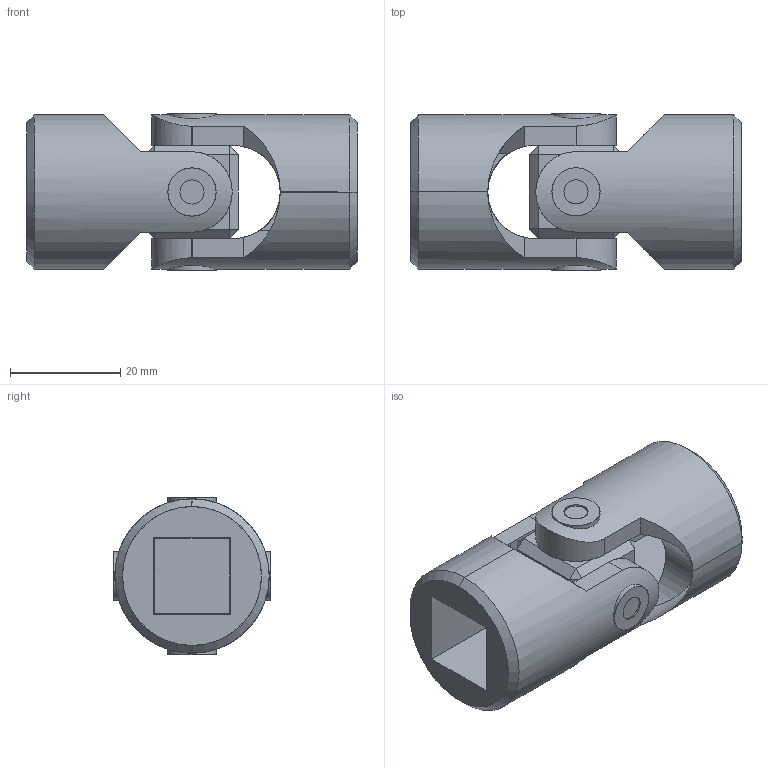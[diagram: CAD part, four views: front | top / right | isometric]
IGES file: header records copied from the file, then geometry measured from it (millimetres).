
Start section: SolidWorks IGES file using analytic representation for surfaces
Global section: file name: C:\Users\IanO\Desktop\R3690_v2\R3690_v2_20231020_IGES\R3690.014-SB.igs; native system: SolidWorks 2019; preprocessor: SolidWorks 2019; author: IanO; date: 231020.152943; units: millimetre
Bounding box: 60 x 28.56 x 28.56 mm (x, y, z)
Surface area: 12716.5 mm2 (no closed solid volume)
Topology: 0 solids, 0 shells, 108 faces, 2016 edges, 2016 vertices
Faces by surface type: bspline 64, revolution 44
